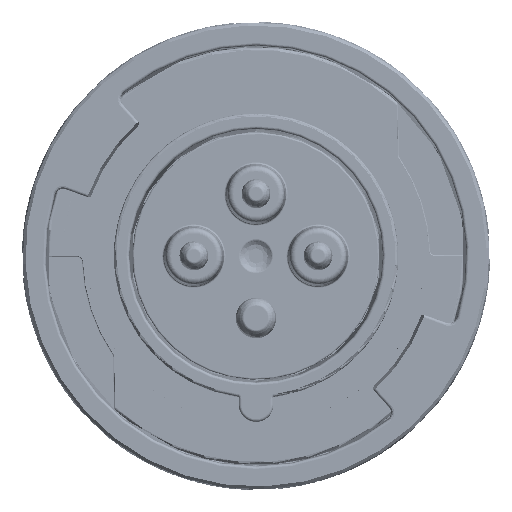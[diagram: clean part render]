
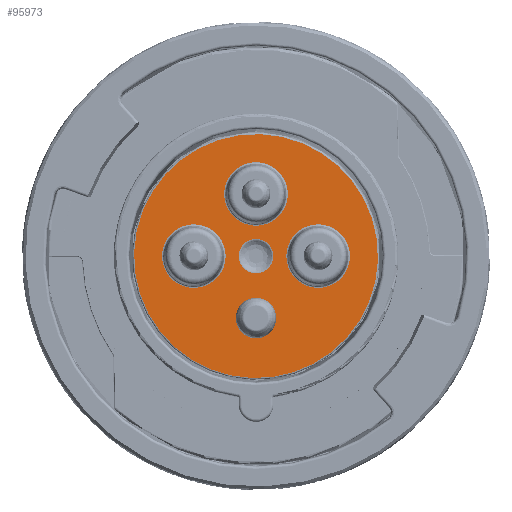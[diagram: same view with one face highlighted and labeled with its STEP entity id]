
A CAD part, top view. The second image highlights one B-rep face of the part: STEP entity #95973.
In plain terms, the highlighted planar face has unit normal (0, 0, 1).
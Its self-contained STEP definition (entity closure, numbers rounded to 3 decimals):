
#35118=CARTESIAN_POINT('',(0.,0.,2.7));
#35119=DIRECTION('',(0.,0.,1.));
#35120=DIRECTION('',(-0.139,0.99,0.));
#35121=AXIS2_PLACEMENT_3D('',#35118,#35119,#35120);
#35123=CARTESIAN_POINT('',(0.,0.,2.7));
#35124=DIRECTION('',(0.,0.,1.));
#35125=DIRECTION('',(0.139,-0.99,0.));
#35126=AXIS2_PLACEMENT_3D('',#35123,#35124,#35125);
#35128=CARTESIAN_POINT('',(10.75,0.,2.7));
#35129=DIRECTION('',(0.,0.,1.));
#35130=DIRECTION('',(-1.,0.,0.));
#35131=AXIS2_PLACEMENT_3D('',#35128,#35129,#35130);
#35133=CARTESIAN_POINT('',(10.75,0.,2.7));
#35134=DIRECTION('',(0.,0.,1.));
#35135=DIRECTION('',(1.,0.,0.));
#35136=AXIS2_PLACEMENT_3D('',#35133,#35134,#35135);
#35138=CARTESIAN_POINT('',(0.,10.75,2.7));
#35139=DIRECTION('',(0.,0.,1.));
#35140=DIRECTION('',(0.,1.,0.));
#35141=AXIS2_PLACEMENT_3D('',#35138,#35139,#35140);
#35143=CARTESIAN_POINT('',(0.,10.75,2.7));
#35144=DIRECTION('',(0.,0.,1.));
#35145=DIRECTION('',(0.,-1.,0.));
#35146=AXIS2_PLACEMENT_3D('',#35143,#35144,#35145);
#35148=CARTESIAN_POINT('',(-10.75,0.,2.7));
#35149=DIRECTION('',(0.,0.,1.));
#35150=DIRECTION('',(-1.,0.,0.));
#35151=AXIS2_PLACEMENT_3D('',#35148,#35149,#35150);
#35153=CARTESIAN_POINT('',(-10.75,0.,2.7));
#35154=DIRECTION('',(0.,0.,1.));
#35155=DIRECTION('',(1.,0.,0.));
#35156=AXIS2_PLACEMENT_3D('',#35153,#35154,#35155);
#35158=CARTESIAN_POINT('',(0.,0.,2.7));
#35159=DIRECTION('',(0.,0.,-1.));
#35160=DIRECTION('',(0.,1.,0.));
#35161=AXIS2_PLACEMENT_3D('',#35158,#35159,#35160);
#35163=CARTESIAN_POINT('',(0.,0.,2.7));
#35164=DIRECTION('',(0.,0.,-1.));
#35165=DIRECTION('',(0.,-1.,0.));
#35166=AXIS2_PLACEMENT_3D('',#35163,#35164,#35165);
#35168=CARTESIAN_POINT('',(0.,-10.75,2.7));
#35169=DIRECTION('',(0.,0.,-1.));
#35170=DIRECTION('',(0.94,0.342,0.));
#35171=AXIS2_PLACEMENT_3D('',#35168,#35169,#35170);
#35173=CARTESIAN_POINT('',(0.,-10.75,2.7));
#35174=DIRECTION('',(0.,0.,-1.));
#35175=DIRECTION('',(-0.94,-0.342,0.));
#35176=AXIS2_PLACEMENT_3D('',#35173,#35174,#35175);
#72293=CARTESIAN_POINT('',(5.246,0.,2.7));
#72294=CARTESIAN_POINT('',(16.254,0.,2.7));
#72295=VERTEX_POINT('',#72293);
#72296=VERTEX_POINT('',#72294);
#72309=CARTESIAN_POINT('',(0.,2.985,2.7));
#72310=CARTESIAN_POINT('',(0.,-2.985,2.7));
#72311=VERTEX_POINT('',#72309);
#72312=VERTEX_POINT('',#72310);
#72317=CARTESIAN_POINT('',(-2.937,20.895,2.7));
#72318=CARTESIAN_POINT('',(2.937,-20.895,2.7));
#72319=VERTEX_POINT('',#72317);
#72320=VERTEX_POINT('',#72318);
#72345=CARTESIAN_POINT('',(0.,16.254,2.7));
#72346=CARTESIAN_POINT('',(0.,5.246,2.7));
#72347=VERTEX_POINT('',#72345);
#72348=VERTEX_POINT('',#72346);
#72353=CARTESIAN_POINT('',(-16.254,0.,2.7));
#72354=CARTESIAN_POINT('',(-5.246,0.,2.7));
#72355=VERTEX_POINT('',#72353);
#72356=VERTEX_POINT('',#72354);
#72396=CARTESIAN_POINT('',(3.28,-9.556,2.7));
#72397=CARTESIAN_POINT('',(-3.28,-11.944,2.7));
#72398=VERTEX_POINT('',#72396);
#72399=VERTEX_POINT('',#72397);
#95933=CARTESIAN_POINT('',(0.,0.,2.7));
#95934=DIRECTION('',(0.,0.,-1.));
#95935=DIRECTION('',(0.,-1.,0.));
#95936=AXIS2_PLACEMENT_3D('',#95933,#95934,#95935);
#95937=PLANE('1565',#95936);
#95938=ORIENTED_EDGE('6290',*,*,#95911,.F.);
#95940=ORIENTED_EDGE('6292',*,*,#95939,.F.);
#95941=EDGE_LOOP('1565',(#95938,#95940));
#95942=FACE_OUTER_BOUND('1565',#95941,.F.);
#95944=ORIENTED_EDGE('6274',*,*,#95943,.T.);
#95946=ORIENTED_EDGE('6276',*,*,#95945,.T.);
#95947=EDGE_LOOP('1565',(#95944,#95946));
#95948=FACE_BOUND('1565',#95947,.F.);
#95950=ORIENTED_EDGE('6314',*,*,#95949,.T.);
#95952=ORIENTED_EDGE('6316',*,*,#95951,.T.);
#95953=EDGE_LOOP('1565',(#95950,#95952));
#95954=FACE_BOUND('1565',#95953,.F.);
#95956=ORIENTED_EDGE('6318',*,*,#95955,.T.);
#95958=ORIENTED_EDGE('6320',*,*,#95957,.T.);
#95959=EDGE_LOOP('1565',(#95956,#95958));
#95960=FACE_BOUND('1565',#95959,.F.);
#95962=ORIENTED_EDGE('6282',*,*,#95961,.F.);
#95964=ORIENTED_EDGE('6284',*,*,#95963,.F.);
#95965=EDGE_LOOP('1565',(#95962,#95964));
#95966=FACE_BOUND('1565',#95965,.F.);
#95968=ORIENTED_EDGE('6366',*,*,#95967,.F.);
#95970=ORIENTED_EDGE('6367',*,*,#95969,.F.);
#95971=EDGE_LOOP('1565',(#95968,#95970));
#95972=FACE_BOUND('1565',#95971,.F.);
#35122=CIRCLE('6290',#35121,21.1);
#35127=CIRCLE('6292',#35126,21.1);
#35132=CIRCLE('6274',#35131,5.504);
#35137=CIRCLE('6276',#35136,5.504);
#35142=CIRCLE('6314',#35141,5.504);
#35147=CIRCLE('6316',#35146,5.504);
#35152=CIRCLE('6318',#35151,5.504);
#35157=CIRCLE('6320',#35156,5.504);
#35162=CIRCLE('6282',#35161,2.985);
#35167=CIRCLE('6284',#35166,2.985);
#35172=CIRCLE('6366',#35171,3.49);
#35177=CIRCLE('6367',#35176,3.49);
#95911=EDGE_CURVE('6290',#72319,#72320,#35122,.T.);
#95939=EDGE_CURVE('6292',#72320,#72319,#35127,.T.);
#95943=EDGE_CURVE('6274',#72295,#72296,#35132,.T.);
#95945=EDGE_CURVE('6276',#72296,#72295,#35137,.T.);
#95949=EDGE_CURVE('6314',#72347,#72348,#35142,.T.);
#95951=EDGE_CURVE('6316',#72348,#72347,#35147,.T.);
#95955=EDGE_CURVE('6318',#72355,#72356,#35152,.T.);
#95957=EDGE_CURVE('6320',#72356,#72355,#35157,.T.);
#95961=EDGE_CURVE('6282',#72311,#72312,#35162,.T.);
#95963=EDGE_CURVE('6284',#72312,#72311,#35167,.T.);
#95967=EDGE_CURVE('6366',#72398,#72399,#35172,.T.);
#95969=EDGE_CURVE('6367',#72399,#72398,#35177,.T.);
#95973=ADVANCED_FACE('1565',(#95942,#95948,#95954,#95960,#95966,#95972),#95937,
.F.);
